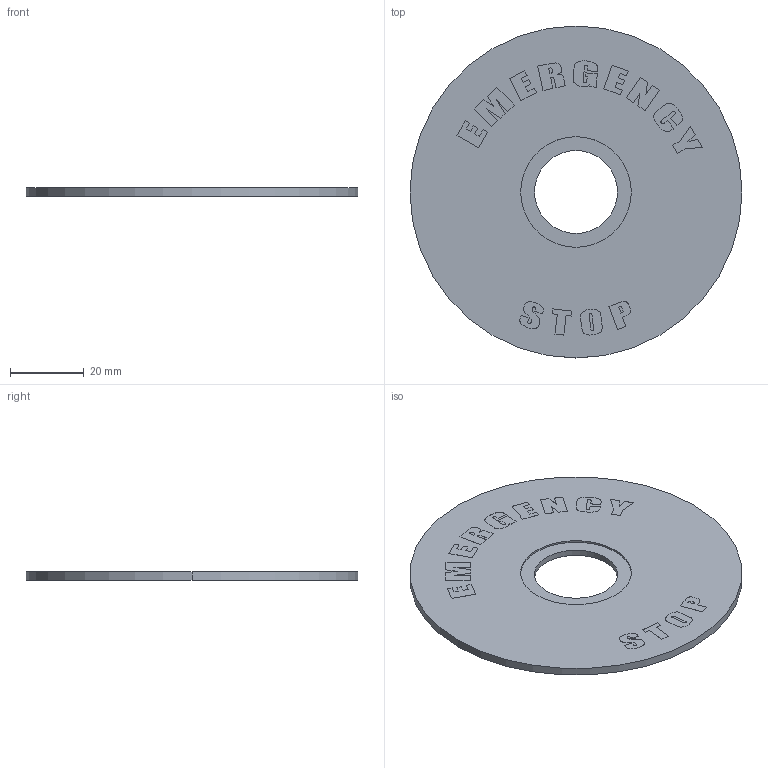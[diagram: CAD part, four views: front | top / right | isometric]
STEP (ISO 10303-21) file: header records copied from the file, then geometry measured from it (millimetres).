
FILE_DESCRIPTION (( 'STEP AP214' ), '1' );
FILE_NAME ('3D 沓麧錪 MTB2-F12.STEP', '2017-04-19T19:18:51', ( '' ), ( '' ), 'SwSTEP 2.0', 'SolidWorks 2011', '' );
FILE_SCHEMA (( 'AUTOMOTIVE_DESIGN' ));
Length unit declared in the file: millimetre
Products named in the file (1): 3D 沓麧錪 MTB2-F12
Bounding box: 90 x 90 x 2.21 mm (x, y, z)
Volume: 10959.7 mm3; surface area: 13086.3 mm2
Topology: 1 solids, 1 shells, 239 faces, 636 edges, 424 vertices
Faces by surface type: plane 164, bspline 53, cylinder 22
Entity records: 12819 total; most frequent: CARTESIAN_POINT 5081, ORIENTED_EDGE 1272, DIRECTION 948, EDGE_CURVE 636, LINE 486, VECTOR 486, VERTEX_POINT 424, EDGE_LOOP 266
